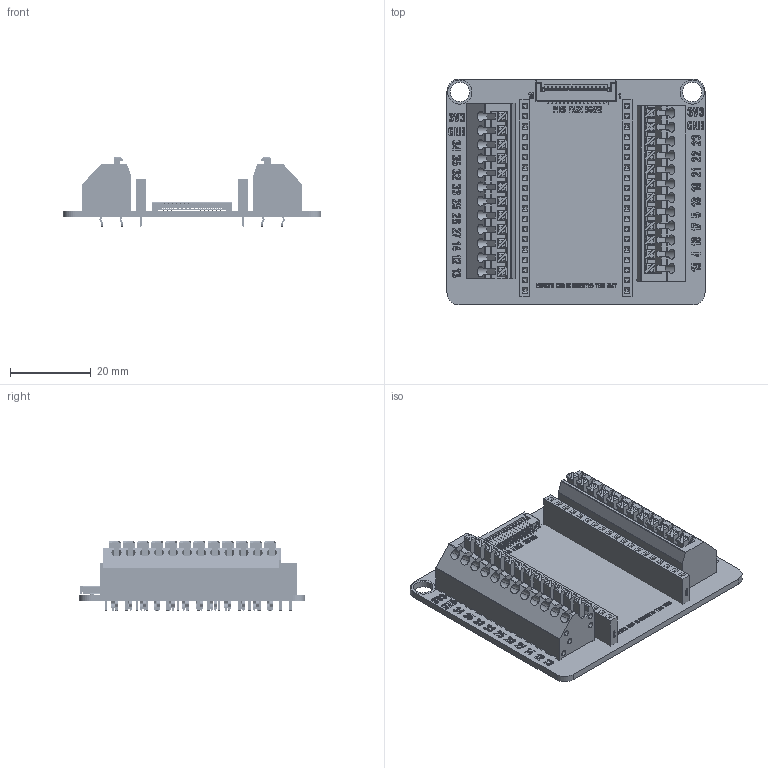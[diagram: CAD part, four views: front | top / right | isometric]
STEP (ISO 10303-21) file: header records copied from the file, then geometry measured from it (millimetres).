
FILE_DESCRIPTION(('Designed by EasyEDA Pro'),'2;1');
FILE_NAME('Open CASCADE Shape Model','2026-09-15T20:57:46',('Author'),( 'Open CASCADE'),'Open CASCADE STEP processor 7.8','Open CASCADE 7.8' ,'Unknown');
FILE_SCHEMA(('AUTOMOTIVE_DESIGN { 1 0 10303 214 1 1 1 1 }'));
Length unit declared in the file: millimetre
Products named in the file (490): EasyEDA PCB Model~FTno; Board~FTno; TopCopper~FTno; BottomCopper~FTno; TopSilkscreen~FTno; BottomSilkscreen~FTno; TopFpcStiffener~FTno; BottomFpcStiffener~FTno; U2~HDR-TH_LAIL-PM2.54-19P-L~HDR-TH_19P-P2.54-F-LI-1X19P~FTno; HDR-TH_LAIL-PM2.54-19P-L~HDR-TH_19P-P2.54-F-LI-1X19P~FTno; U1~HDR-TH_LAIL-PM2.54-19P-L~HDR-TH_19P-P2.54-F-LI-1X19P~FTno; U32~FPC-SMD_15P-P1.00_XUNPU_FPC-1.0FX-15PWCR-H20~FPC-SMD_15P-P1.00_
XUNPU_FPC-1.0FX-15PWCR-H20~FTno; FPC-SMD_15P-P1.00_XUNPU_FPC-1.0FX-15PWCR-H20~FPC-SMD_15P-P1.00_XUNPU_
FPC-1.0FX-15PWCR-H20~FTno; U5~CONN-TH_WJ250B-3.5-12P~CONN-TH_WJ250B-3.5-12P~FTno; CONN-TH_WJ250B-3.5-12P~CONN-TH_WJ250B-3.5-12P~FTno; U4~CONN-TH_WJ250B-3.5-12P~CONN-TH_WJ250B-3.5-12P~FTno
Assembly tree (491 placements, depth 3):
  EasyEDA PCB Model~FTno
    Board~FTno
    TopCopper~FTno
    BottomCopper~FTno
    TopSilkscreen~FTno
      TopSilkscreen~FTno
      TopSilkscreen~FTno
      TopSilkscreen~FTno
      TopSilkscreen~FTno
      TopSilkscreen~FTno
      TopSilkscreen~FTno
      TopSilkscreen~FTno
      TopSilkscreen~FTno
      TopSilkscreen~FTno
      TopSilkscreen~FTno
      TopSilkscreen~FTno
      TopSilkscreen~FTno
      TopSilkscreen~FTno
      TopSilkscreen~FTno
      TopSilkscreen~FTno
      TopSilkscreen~FTno
      TopSilkscreen~FTno
      TopSilkscreen~FTno
      TopSilkscreen~FTno
      TopSilkscreen~FTno
      TopSilkscreen~FTno
      TopSilkscreen~FTno
      TopSilkscreen~FTno
      TopSilkscreen~FTno
      TopSilkscreen~FTno
      TopSilkscreen~FTno
      TopSilkscreen~FTno
      TopSilkscreen~FTno
      TopSilkscreen~FTno
      TopSilkscreen~FTno
      TopSilkscreen~FTno
      TopSilkscreen~FTno
      TopSilkscreen~FTno
      TopSilkscreen~FTno
      TopSilkscreen~FTno
      TopSilkscreen~FTno
      TopSilkscreen~FTno
      TopSilkscreen~FTno
      TopSilkscreen~FTno
      TopSilkscreen~FTno
      TopSilkscreen~FTno
      TopSilkscreen~FTno
      TopSilkscreen~FTno
      TopSilkscreen~FTno
      TopSilkscreen~FTno
      TopSilkscreen~FTno
      TopSilkscreen~FTno
      TopSilkscreen~FTno
      TopSilkscreen~FTno
      TopSilkscreen~FTno
      TopSilkscreen~FTno
      TopSilkscreen~FTno
      TopSilkscreen~FTno
      TopSilkscreen~FTno
      TopSilkscreen~FTno
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Bounding box: 63.97 x 55.97 x 17.2 mm (x, y, z)
Volume: 17258.6 mm3; surface area: 19442.3 mm2
Topology: 48 solids, 522 shells, 4777 faces, 46775 edges, 42774 vertices
Faces by surface type: plane 3641, cylinder 810, bspline 326
Entity records: 408224 total; most frequent: CARTESIAN_POINT 90044, DIRECTION 49790, ORIENTED_EDGE 49772, EDGE_CURVE 42419, LINE 40868, VECTOR 40868, VERTEX_POINT 39911, AXIS2_PLACEMENT_3D 4461
